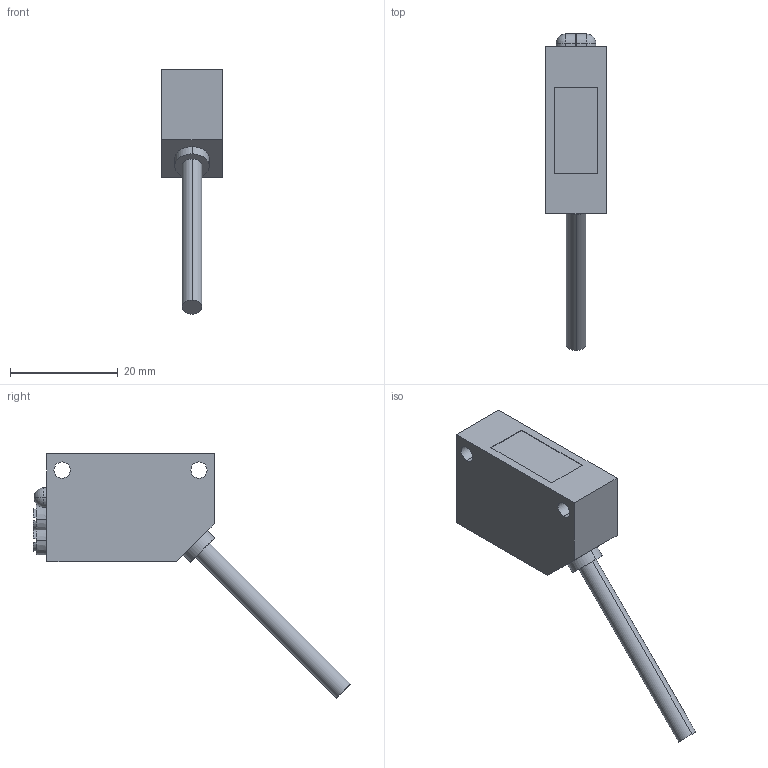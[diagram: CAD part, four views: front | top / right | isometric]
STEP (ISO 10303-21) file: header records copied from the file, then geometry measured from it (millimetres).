
FILE_DESCRIPTION (( 'STEP AP203' ), '1' );
FILE_NAME ('CX-491.STEP', '2005-09-05T02:40:20', ( '川島良英' ), ( ' ' ), 'SwSTEP 2.0', 'SolidWorks 2004251', '' );
FILE_SCHEMA (( 'CONFIG_CONTROL_DESIGN' ));
Length unit declared in the file: millimetre
Products named in the file (1): CX-491
Bounding box: 11.2 x 58.81 x 45.31 mm (x, y, z)
Volume: 7096.5 mm3; surface area: 3030.7 mm2
Topology: 1 solids, 1 shells, 62 faces, 155 edges, 98 vertices
Faces by surface type: plane 29, cylinder 23, cone 6, sphere 4
Entity records: 1942 total; most frequent: CARTESIAN_POINT 355, DIRECTION 329, ORIENTED_EDGE 302, EDGE_CURVE 151, AXIS2_PLACEMENT_3D 124, VERTEX_POINT 98, VECTOR 81, LINE 81
